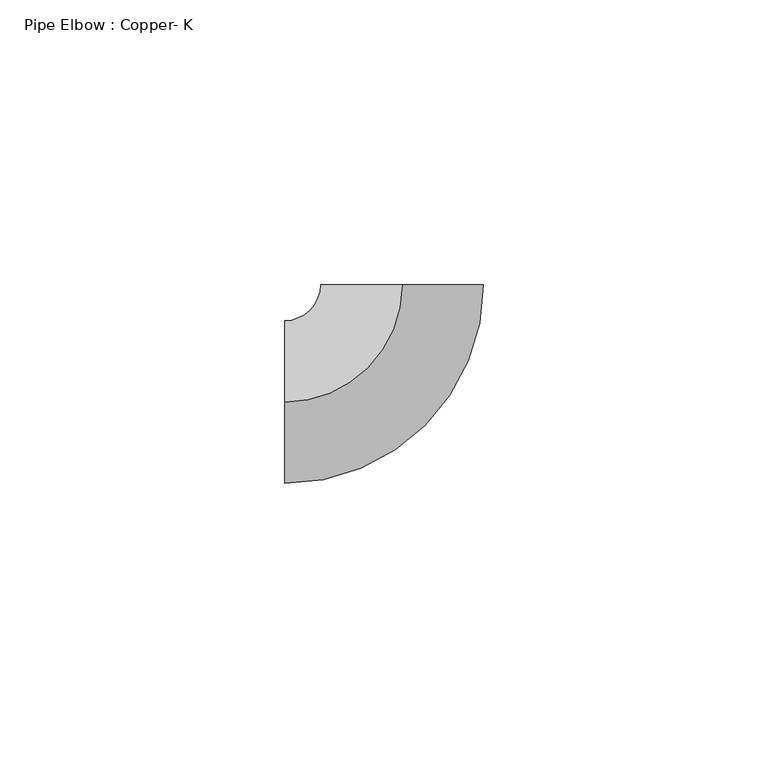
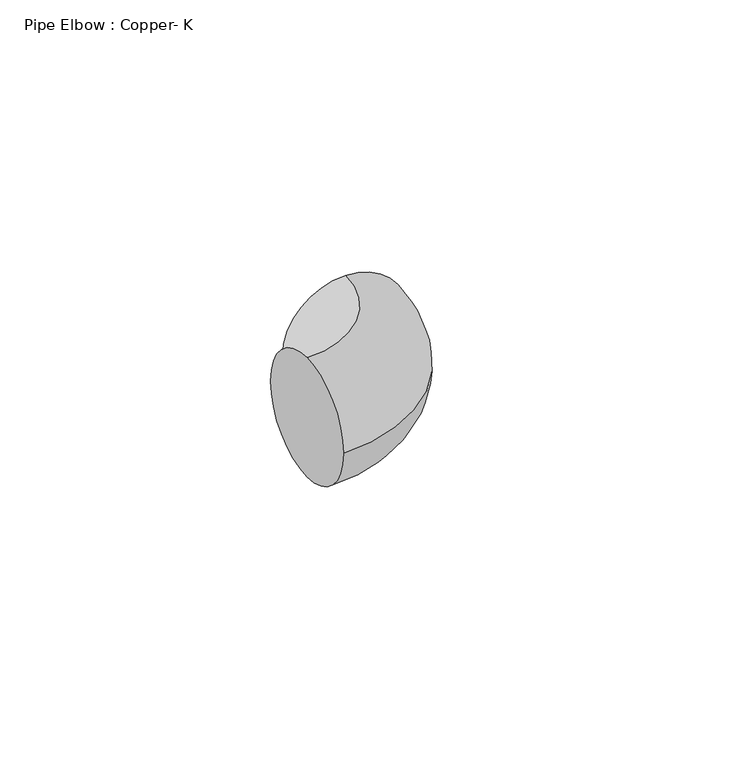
"""IFC4 building model written with IfcOpenShell, lengths in millimetres: pipe fitting geometry, Pipe Elbow : Copper- K."""

from ifc_helpers import new_model, si_unit, point, frame, origin, place, context, project, spatial, circle_curve, ellipse_curve, trimmed, source, transform, mapped, element, save
from ifc_brep_helpers import plane_surface, revolved_surface, advanced_brep


def pipe_elbow_copper_k_5802a6b4(model_context):
    return source(origin(), model_context, "Body", "AdvancedBrep", [
        advanced_brep(
        [(-20.6375012, 0.0, 14.2875), (-20.6375012, 14.2875, 0.0), (-20.6375012, 0.0, -14.2875), (-20.6375012, -14.2875, 0.0), (-1.2e-06, 20.6375012, 14.2875), (14.2874988, 20.6375021, 0.0), (-1.2e-06, 20.6375012, -14.2875), (-14.2875012, 20.6375004, 0.0)],
        [
            (0, 1, circle_curve(frame((-20.6375012, 0.0, 0.0), z_axis=(-1.0, 0.0, 0.0), x_axis=(0.0, 1.0, 0.0)), 14.2875)),
            (1, 2, circle_curve(frame((-20.6375012, 0.0, 0.0), z_axis=(-1.0, 0.0, 0.0), x_axis=(0.0, 1.0, 0.0)), 14.2875)),
            (2, 3, circle_curve(frame((-20.6375012, 0.0, 0.0), z_axis=(-1.0, 0.0, 0.0), x_axis=(0.0, 1.0, 0.0)), 14.2875)),
            (3, 0, circle_curve(frame((-20.6375012, 0.0, 0.0), z_axis=(-1.0, 0.0, 0.0), x_axis=(0.0, 1.0, 0.0)), 14.2875)),
            (4, 5, circle_curve(frame((-1.2e-06, 20.6375012, 0.0), z_axis=(-5.880606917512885e-08, 0.9999999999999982, 0.0), x_axis=(-0.9999999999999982, -5.880606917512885e-08, 0.0)), 14.2875)),
            (5, 6, circle_curve(frame((-1.2e-06, 20.6375012, 0.0), z_axis=(-5.880606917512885e-08, 0.9999999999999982, 0.0), x_axis=(-0.9999999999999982, -5.880606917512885e-08, 0.0)), 14.2875)),
            (6, 7, circle_curve(frame((-1.2e-06, 20.6375012, 0.0), z_axis=(-5.880606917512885e-08, 0.9999999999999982, 0.0), x_axis=(-0.9999999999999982, -5.880606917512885e-08, 0.0)), 14.2875)),
            (7, 4, circle_curve(frame((-1.2e-06, 20.6375012, 0.0), z_axis=(-5.880606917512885e-08, 0.9999999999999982, 0.0), x_axis=(-0.9999999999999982, -5.880606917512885e-08, 0.0)), 14.2875)),
            (7, 1, circle_curve(frame((-20.6375012, 20.6375, 0.0), z_axis=(0.0, 0.0, -1.0), x_axis=(0.0, -1.0, 0.0)), 6.35)),
            (0, 4, circle_curve(frame((-20.6375012, 20.6375, 14.2875), z_axis=(0.0, 0.0, 1.0), x_axis=(0.0, -1.0, 0.0)), 20.6375)),
            (6, 2, circle_curve(frame((-20.6375012, 20.6375, -14.2875), z_axis=(0.0, 0.0, -1.0), x_axis=(0.0, -1.0, 0.0)), 20.6375)),
            (5, 3, circle_curve(frame((-20.6375012, 20.6375, 0.0), z_axis=(0.0, 0.0, -1.0), x_axis=(0.0, -1.0, 0.0)), 34.925)),
        ],
        [
            plane_surface(frame((-20.6375012, 0.0, 0.0), z_axis=(-1.0, 0.0, 0.0), x_axis=(0.0, 0.0, 1.0))),
            plane_surface(frame((-1.2e-06, 20.6375012, 0.0), z_axis=(-5.880606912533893e-08, 0.9999999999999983, 0.0), x_axis=(0.0, 0.0, 1.0))),
            revolved_surface(trimmed(ellipse_curve(frame((-20.6375012, 0.0, 0.0), z_axis=(-1.0, 0.0, 0.0), x_axis=(0.0, 1.0, 0.0)), 14.2875, 14.2875), [point((-20.6375012, 0.0, 14.2875))], [point((-20.6375012, 14.2875, 0.0))], True, "CARTESIAN"), (-20.6375012, 20.6375, 0.0), (0.0, 0.0, 1.0)),
            revolved_surface(trimmed(ellipse_curve(frame((-20.6375012, 0.0, 0.0), z_axis=(-1.0, 0.0, 0.0), x_axis=(0.0, 1.0, 0.0)), 14.2875, 14.2875), [point((-20.6375012, 14.2875, 0.0))], [point((-20.6375012, 0.0, -14.2875))], True, "CARTESIAN"), (-20.6375012, 20.6375, 0.0), (0.0, 0.0, 1.0)),
            revolved_surface(trimmed(ellipse_curve(frame((-20.6375012, 0.0, 0.0), z_axis=(-1.0, 0.0, 0.0), x_axis=(0.0, 1.0, 0.0)), 14.2875, 14.2875), [point((-20.6375012, 0.0, -14.2875))], [point((-20.6375012, -14.2875, 0.0))], True, "CARTESIAN"), (-20.6375012, 20.6375, 0.0), (0.0, 0.0, 1.0)),
            revolved_surface(trimmed(ellipse_curve(frame((-20.6375012, 0.0, 0.0), z_axis=(-1.0, 0.0, 0.0), x_axis=(0.0, 1.0, 0.0)), 14.2875, 14.2875), [point((-20.6375012, -14.2875, 0.0))], [point((-20.6375012, 0.0, 14.2875))], True, "CARTESIAN"), (-20.6375012, 20.6375, 0.0), (0.0, 0.0, 1.0)),
        ],
        [
            (0, [[1, 2, 3, 4]]),
            (1, [[5, 6, 7, 8]]),
            (2, [[9, -1, 10, -8]]),
            (3, [[11, -2, -9, -7]]),
            (4, [[12, -3, -11, -6]]),
            (5, [[-10, -4, -12, -5]]),
        ],
    ),
        advanced_brep(
        [(-20.6375012, 0.0, 14.2875), (-20.6375012, 14.2875, 0.0), (-20.6375012, 0.0, -14.2875), (-20.6375012, -14.2875, 0.0), (-1.2e-06, 20.6375012, 14.2875), (14.2874988, 20.6375021, 0.0), (-1.2e-06, 20.6375012, -14.2875), (-14.2875012, 20.6375004, 0.0)],
        [
            (0, 1, circle_curve(frame((-20.6375012, 0.0, 0.0), z_axis=(-1.0, 0.0, 0.0), x_axis=(0.0, 1.0, 0.0)), 14.2875)),
            (1, 2, circle_curve(frame((-20.6375012, 0.0, 0.0), z_axis=(-1.0, 0.0, 0.0), x_axis=(0.0, 1.0, 0.0)), 14.2875)),
            (2, 3, circle_curve(frame((-20.6375012, 0.0, 0.0), z_axis=(-1.0, 0.0, 0.0), x_axis=(0.0, 1.0, 0.0)), 14.2875)),
            (3, 0, circle_curve(frame((-20.6375012, 0.0, 0.0), z_axis=(-1.0, 0.0, 0.0), x_axis=(0.0, 1.0, 0.0)), 14.2875)),
            (4, 5, circle_curve(frame((-1.2e-06, 20.6375012, 0.0), z_axis=(-5.880606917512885e-08, 0.9999999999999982, 0.0), x_axis=(-0.9999999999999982, -5.880606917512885e-08, 0.0)), 14.2875)),
            (5, 6, circle_curve(frame((-1.2e-06, 20.6375012, 0.0), z_axis=(-5.880606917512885e-08, 0.9999999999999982, 0.0), x_axis=(-0.9999999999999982, -5.880606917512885e-08, 0.0)), 14.2875)),
            (6, 7, circle_curve(frame((-1.2e-06, 20.6375012, 0.0), z_axis=(-5.880606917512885e-08, 0.9999999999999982, 0.0), x_axis=(-0.9999999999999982, -5.880606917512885e-08, 0.0)), 14.2875)),
            (7, 4, circle_curve(frame((-1.2e-06, 20.6375012, 0.0), z_axis=(-5.880606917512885e-08, 0.9999999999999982, 0.0), x_axis=(-0.9999999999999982, -5.880606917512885e-08, 0.0)), 14.2875)),
            (7, 1, circle_curve(frame((-20.6375012, 20.6375, 0.0), z_axis=(0.0, 0.0, -1.0), x_axis=(0.0, -1.0, 0.0)), 6.35)),
            (0, 4, circle_curve(frame((-20.6375012, 20.6375, 14.2875), z_axis=(0.0, 0.0, 1.0), x_axis=(0.0, -1.0, 0.0)), 20.6375)),
            (6, 2, circle_curve(frame((-20.6375012, 20.6375, -14.2875), z_axis=(0.0, 0.0, -1.0), x_axis=(0.0, -1.0, 0.0)), 20.6375)),
            (5, 3, circle_curve(frame((-20.6375012, 20.6375, 0.0), z_axis=(0.0, 0.0, -1.0), x_axis=(0.0, -1.0, 0.0)), 34.925)),
        ],
        [
            plane_surface(frame((-20.6375012, 0.0, 0.0), z_axis=(-1.0, 0.0, 0.0), x_axis=(0.0, 0.0, 1.0))),
            plane_surface(frame((-1.2e-06, 20.6375012, 0.0), z_axis=(-5.880606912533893e-08, 0.9999999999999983, 0.0), x_axis=(0.0, 0.0, 1.0))),
            revolved_surface(trimmed(ellipse_curve(frame((-20.6375012, 0.0, 0.0), z_axis=(-1.0, 0.0, 0.0), x_axis=(0.0, 1.0, 0.0)), 14.2875, 14.2875), [point((-20.6375012, 0.0, 14.2875))], [point((-20.6375012, 14.2875, 0.0))], True, "CARTESIAN"), (-20.6375012, 20.6375, 0.0), (0.0, 0.0, 1.0)),
            revolved_surface(trimmed(ellipse_curve(frame((-20.6375012, 0.0, 0.0), z_axis=(-1.0, 0.0, 0.0), x_axis=(0.0, 1.0, 0.0)), 14.2875, 14.2875), [point((-20.6375012, 14.2875, 0.0))], [point((-20.6375012, 0.0, -14.2875))], True, "CARTESIAN"), (-20.6375012, 20.6375, 0.0), (0.0, 0.0, 1.0)),
            revolved_surface(trimmed(ellipse_curve(frame((-20.6375012, 0.0, 0.0), z_axis=(-1.0, 0.0, 0.0), x_axis=(0.0, 1.0, 0.0)), 14.2875, 14.2875), [point((-20.6375012, 0.0, -14.2875))], [point((-20.6375012, -14.2875, 0.0))], True, "CARTESIAN"), (-20.6375012, 20.6375, 0.0), (0.0, 0.0, 1.0)),
            revolved_surface(trimmed(ellipse_curve(frame((-20.6375012, 0.0, 0.0), z_axis=(-1.0, 0.0, 0.0), x_axis=(0.0, 1.0, 0.0)), 14.2875, 14.2875), [point((-20.6375012, -14.2875, 0.0))], [point((-20.6375012, 0.0, 14.2875))], True, "CARTESIAN"), (-20.6375012, 20.6375, 0.0), (0.0, 0.0, 1.0)),
        ],
        [
            (0, [[1, 2, 3, 4]]),
            (1, [[5, 6, 7, 8]]),
            (2, [[9, -1, 10, -8]]),
            (3, [[11, -2, -9, -7]]),
            (4, [[12, -3, -11, -6]]),
            (5, [[-10, -4, -12, -5]]),
        ],
    ),
    ])


if __name__ == "__main__":
    model = new_model("IFC4")
    model_context = context("Model", 3, world=origin())
    ifc_project = project(units=[si_unit("LENGTHUNIT", "METRE", prefix="MILLI")], contexts=[model_context])
    site = spatial("IfcSite", under=ifc_project)
    building = spatial("IfcBuilding", under=site)
    placement = place(None, origin())
    pipe_elbow_copper_k_shape = pipe_elbow_copper_k_5802a6b4(model_context)
    element("IfcPipeFitting", 1, ObjectType="Pipe Elbow : Copper- K", at=placement, inside=building, context=model_context, shape_type="MappedRepresentation", body=[
        mapped(pipe_elbow_copper_k_shape, transform((0.0, 0.0, 0.0), x_axis=(1.0, 0.0, 0.0), y_axis=(0.0, 1.0, 0.0), z_axis=(0.0, 0.0, 1.0))),
    ])
    save(model, "model.ifc")
